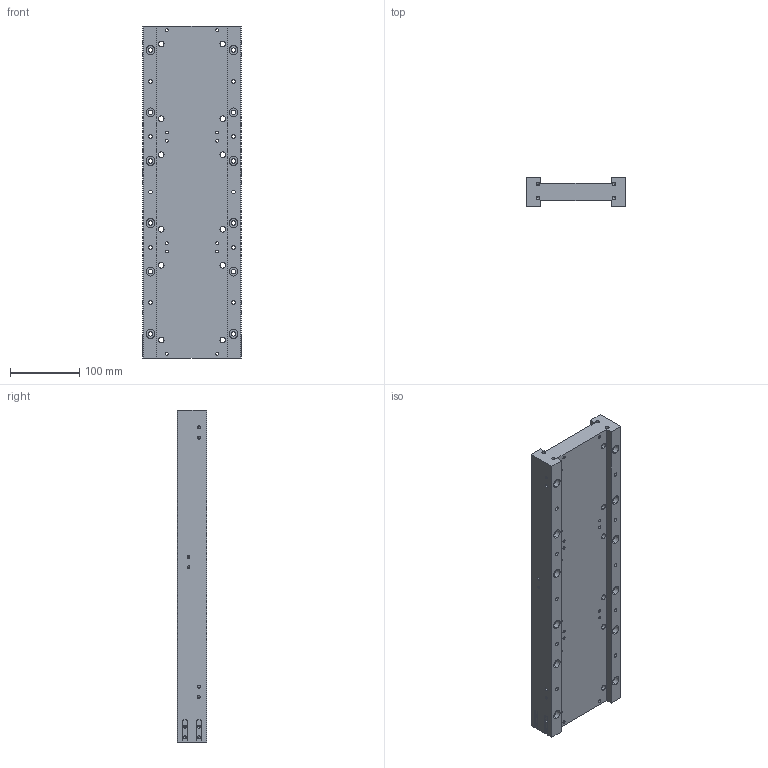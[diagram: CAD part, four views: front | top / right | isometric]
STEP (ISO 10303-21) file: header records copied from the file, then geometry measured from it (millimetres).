
FILE_DESCRIPTION (( 'STEP AP203' ), '1' );
FILE_NAME ('FB-010-27A炴芃盓釱D.STEP', '2025-03-19T03:39:23', ( 'Windows 蚚誧' ), ( 'Organization' ), 'SwSTEP 2.0', 'SolidWorks 2020', '' );
FILE_SCHEMA (( 'CONFIG_CONTROL_DESIGN' ));
Length unit declared in the file: millimetre
Products named in the file (1): FB-010-27A炴芃盓釱D
Bounding box: 142 x 42 x 480 mm (x, y, z)
Volume: 1871729.1 mm3; surface area: 245966.9 mm2
Topology: 1 solids, 1 shells, 386 faces, 998 edges, 606 vertices
Faces by surface type: cylinder 246, cone 72, plane 68
Entity records: 11897 total; most frequent: CARTESIAN_POINT 2183, DIRECTION 2162, ORIENTED_EDGE 1852, EDGE_CURVE 926, AXIS2_PLACEMENT_3D 873, VERTEX_POINT 606, EDGE_LOOP 550, CIRCLE 486
